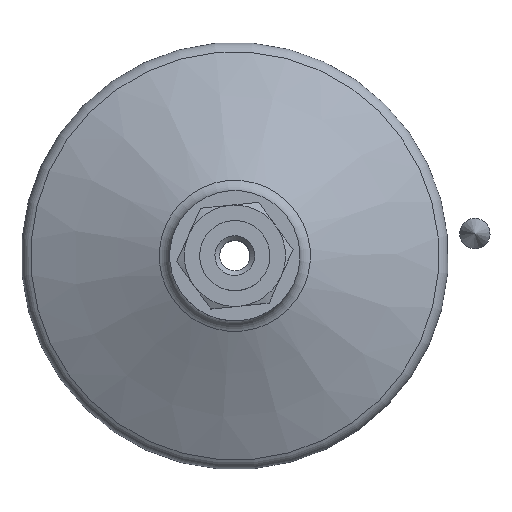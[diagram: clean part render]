
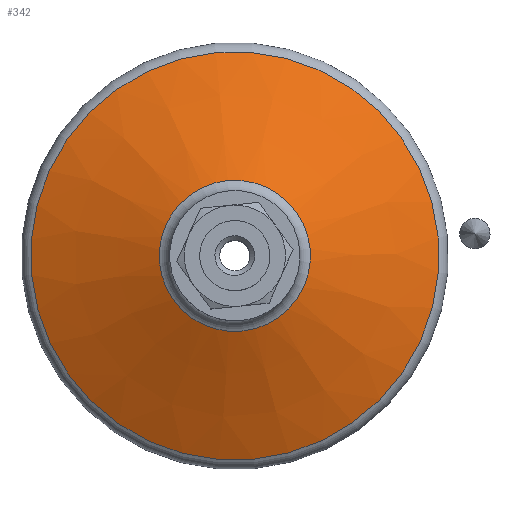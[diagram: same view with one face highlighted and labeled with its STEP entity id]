
A CAD part, top view. The second image highlights one B-rep face of the part: STEP entity #342.
In plain terms, the highlighted conical face has half-angle 64.982 degrees and reference radius 19.322 mm.
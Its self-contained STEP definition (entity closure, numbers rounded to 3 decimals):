
#342=ADVANCED_FACE('',(#598,#599),#600,.T.);
#598=FACE_BOUND('',#836,.T.);
#599=FACE_OUTER_BOUND('',#837,.T.);
#600=CONICAL_SURFACE('',#838,19.322,1.134);
#836=EDGE_LOOP('',(#1236));
#837=EDGE_LOOP('',(#1237));
#838=AXIS2_PLACEMENT_3D('',#1238,#1239,#1240);
#1236=ORIENTED_EDGE('',*,*,#1383,.T.);
#1237=ORIENTED_EDGE('',*,*,#1380,.F.);
#1238=CARTESIAN_POINT('',(0.0,0.,20.183));
#1239=DIRECTION('',(0.0,0.,-1.0));
#1240=DIRECTION('',(1.0,0.0,0.0));
#1380=EDGE_CURVE('',#1575,#1575,#1576,.T.);
#1383=EDGE_CURVE('',#1580,#1580,#1581,.T.);
#1575=VERTEX_POINT('',#1951);
#1576=CIRCLE('',#1952,28.202);
#1580=VERTEX_POINT('',#1956);
#1581=CIRCLE('',#1957,10.442);
#1951=CARTESIAN_POINT('',(0.0,28.202,16.039));
#1952=AXIS2_PLACEMENT_3D('',#2181,#2182,#2183);
#1956=CARTESIAN_POINT('',(0.0,10.442,24.327));
#1957=AXIS2_PLACEMENT_3D('',#2187,#2188,#2189);
#2181=CARTESIAN_POINT('',(0.0,0.,16.039));
#2182=DIRECTION('',(0.0,0.,-1.0));
#2183=DIRECTION('',(0.0,1.0,0.));
#2187=CARTESIAN_POINT('',(0.0,0.,24.327));
#2188=DIRECTION('',(0.0,0.,-1.0));
#2189=DIRECTION('',(0.0,1.0,0.));
